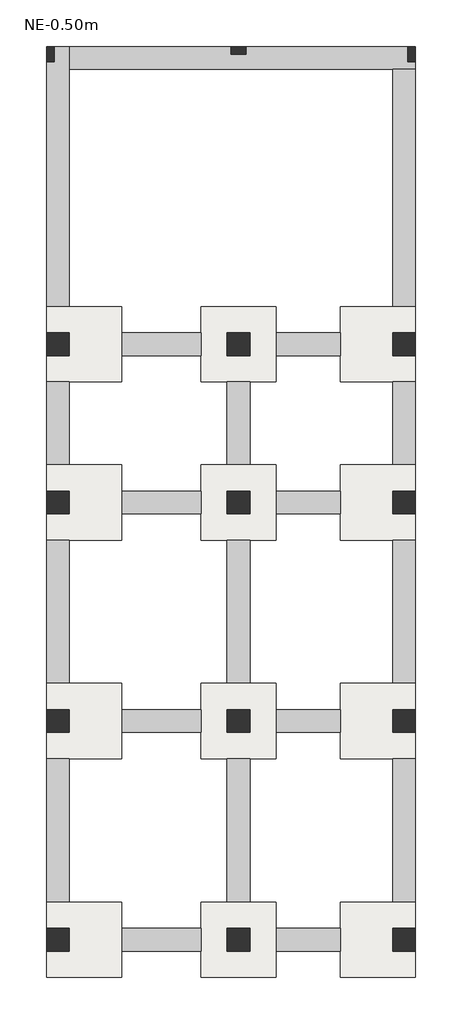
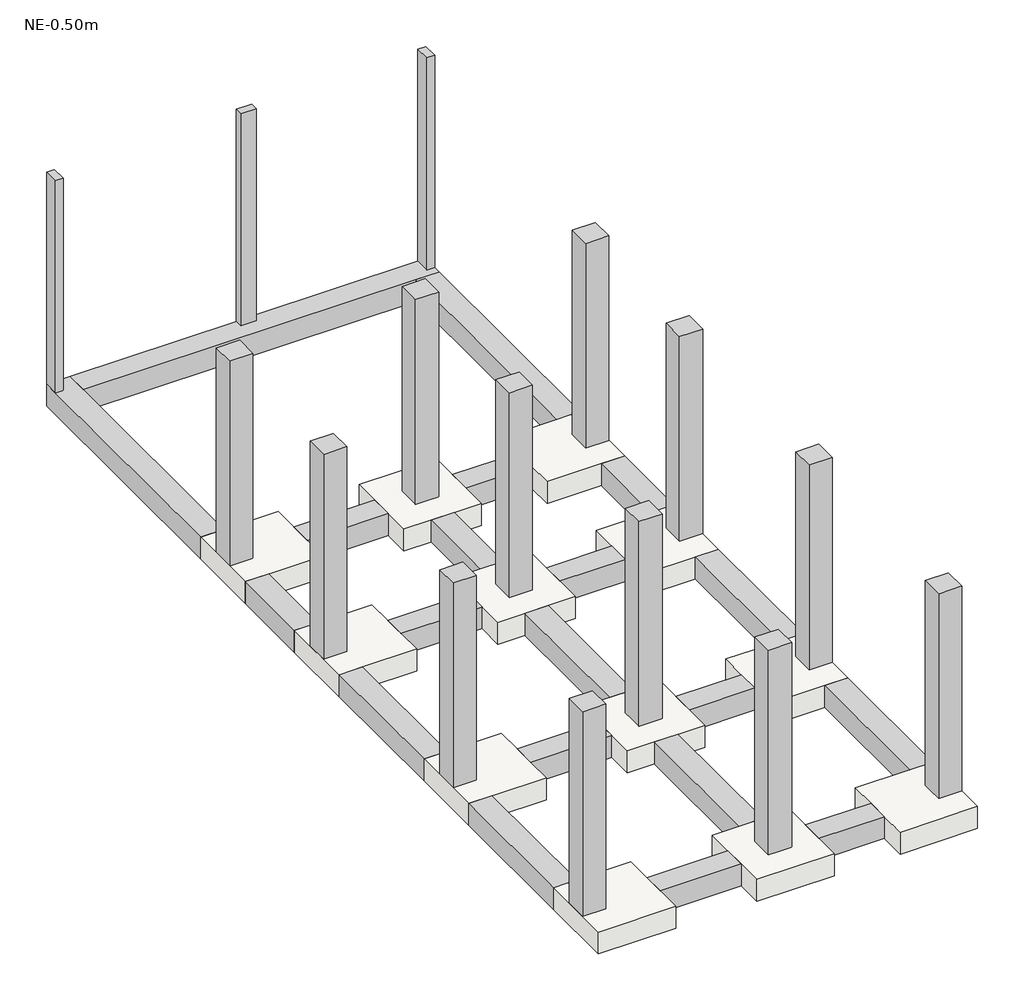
# One storey: 20 beams, 15 columns, 12 slabs.
"""IFC4 building model written with IfcOpenShell, lengths in millimetres."""

from ifc_helpers import new_model, si_unit, frame, origin, place, context, project, spatial, polyline, outline, extrude, faceted_brep, element, save

model = new_model("IFC4")

# Units and contexts
model_context = context("Model", 3, world=origin())
ifc_project = project(units=[si_unit("LENGTHUNIT", "METRE", prefix="MILLI")], contexts=[model_context])

# Site, building, storey
site = spatial("IfcSite", under=ifc_project)
building = spatial("IfcBuilding", under=site)
storey = spatial("IfcBuildingStorey", under=building, Name="NE-0.50m", Elevation=-500.0)

# Beams
placement = place(None, origin())
element("IfcBeam", 1, ObjectType="Hormigón-Viga rectangular : VC (0.30x0.30m)", at=placement, inside=storey, context=model_context, shape_type="SweptSolid", body=[
    extrude(outline(polyline([(1352.3188918, 412.8132138), (1652.3188918, 412.8132138), (1652.3188918, -687.1867862), (1352.3188918, -687.1867862), (1352.3188918, 412.8132138)])), frame((0.0, 0.0, -800.0), z_axis=(0.0, 0.0, 1.0), x_axis=(1.0, 0.0, 0.0)), (0.0, 0.0, 1.0), 300.0),
])
element("IfcBeam", 2, ObjectType="Hormigón-Viga rectangular : VC (0.30x0.30m)", at=placement, inside=storey, context=model_context, shape_type="SweptSolid", body=[
    extrude(outline(polyline([(1652.3188918, -3587.1867862), (1352.3188918, -3587.1867862), (1352.3188918, -1687.1867862), (1652.3188918, -1687.1867862), (1652.3188918, -3587.1867862)])), frame((0.0, 0.0, -800.0), z_axis=(0.0, 0.0, 1.0), x_axis=(1.0, 0.0, 0.0)), (0.0, 0.0, 1.0), 300.0),
])
element("IfcBeam", 3, ObjectType="Hormigón-Viga rectangular : VC (0.30x0.30m)", at=placement, inside=storey, context=model_context, shape_type="SweptSolid", body=[
    extrude(outline(polyline([(1652.3188918, -6487.1867862), (1352.3188918, -6487.1867862), (1352.3188918, -4587.1867862), (1652.3188918, -4587.1867862), (1652.3188918, -6487.1867862)])), frame((0.0, 0.0, -800.0), z_axis=(0.0, 0.0, 1.0), x_axis=(1.0, 0.0, 0.0)), (0.0, 0.0, 1.0), 300.0),
])
element("IfcBeam", 4, ObjectType="Hormigón-Viga rectangular : VC (0.30x0.30m)", at=placement, inside=storey, context=model_context, shape_type="SweptSolid", body=[
    extrude(outline(polyline([(-1047.6811082, 412.8132138), (-747.6811082, 412.8132138), (-747.6811082, -687.1867862), (-1047.6811082, -687.1867862), (-1047.6811082, 412.8132138)])), frame((0.0, 0.0, -800.0), z_axis=(0.0, 0.0, 1.0), x_axis=(1.0, 0.0, 0.0)), (0.0, 0.0, 1.0), 300.0),
])
element("IfcBeam", 5, ObjectType="Hormigón-Viga rectangular : VC (0.30x0.30m)", at=placement, inside=storey, context=model_context, shape_type="SweptSolid", body=[
    extrude(outline(polyline([(-747.6811082, -3587.1867862), (-1047.6811082, -3587.1867862), (-1047.6811082, -1687.1867862), (-747.6811082, -1687.1867862), (-747.6811082, -3587.1867862)])), frame((0.0, 0.0, -800.0), z_axis=(0.0, 0.0, 1.0), x_axis=(1.0, 0.0, 0.0)), (0.0, 0.0, 1.0), 300.0),
])
element("IfcBeam", 6, ObjectType="Hormigón-Viga rectangular : VC (0.30x0.30m)", at=placement, inside=storey, context=model_context, shape_type="SweptSolid", body=[
    extrude(outline(polyline([(-747.6811082, -6487.1867862), (-1047.6811082, -6487.1867862), (-1047.6811082, -4587.1867862), (-747.6811082, -4587.1867862), (-747.6811082, -6487.1867862)])), frame((0.0, 0.0, -800.0), z_axis=(0.0, 0.0, 1.0), x_axis=(1.0, 0.0, 0.0)), (0.0, 0.0, 1.0), 300.0),
])
element("IfcBeam", 7, ObjectType="Hormigón-Viga rectangular : VC (0.30x0.30m)", at=placement, inside=storey, context=model_context, shape_type="SweptSolid", body=[
    extrude(outline(polyline([(3852.3188918, -687.1867862), (3552.3188918, -687.1867862), (3552.3188918, 412.8132138), (3852.3188918, 412.8132138), (3852.3188918, -687.1867862)])), frame((0.0, 0.0, -800.0), z_axis=(0.0, 0.0, 1.0), x_axis=(1.0, 0.0, 0.0)), (0.0, 0.0, 1.0), 300.0),
])
element("IfcBeam", 8, ObjectType="Hormigón-Viga rectangular : VC (0.30x0.30m)", at=placement, inside=storey, context=model_context, shape_type="SweptSolid", body=[
    extrude(outline(polyline([(3852.3188918, -3587.1867862), (3552.3188918, -3587.1867862), (3552.3188918, -1687.1867862), (3852.3188918, -1687.1867862), (3852.3188918, -3587.1867862)])), frame((0.0, 0.0, -800.0), z_axis=(0.0, 0.0, 1.0), x_axis=(1.0, 0.0, 0.0)), (0.0, 0.0, 1.0), 300.0),
])
element("IfcBeam", 9, ObjectType="Hormigón-Viga rectangular : VC (0.30x0.30m)", at=placement, inside=storey, context=model_context, shape_type="SweptSolid", body=[
    extrude(outline(polyline([(3852.3188918, -6487.1867862), (3552.3188918, -6487.1867862), (3552.3188918, -4587.1867862), (3852.3188918, -4587.1867862), (3852.3188918, -6487.1867862)])), frame((0.0, 0.0, -800.0), z_axis=(0.0, 0.0, 1.0), x_axis=(1.0, 0.0, 0.0)), (0.0, 0.0, 1.0), 300.0),
])
element("IfcBeam", 10, ObjectType="Hormigón-Viga rectangular : VC (0.30x0.30m)", at=placement, inside=storey, context=model_context, shape_type="SweptSolid", body=[
    extrude(outline(polyline([(-47.6811082, -7137.1867862), (-47.6811082, -6837.1867862), (1002.3188918, -6837.1867862), (1002.3188918, -7137.1867862), (-47.6811082, -7137.1867862)])), frame((0.0, 0.0, -800.0), z_axis=(0.0, 0.0, 1.0), x_axis=(1.0, 0.0, 0.0)), (0.0, 0.0, 1.0), 300.0),
])
element("IfcBeam", 11, ObjectType="Hormigón-Viga rectangular : VC (0.30x0.30m)", at=placement, inside=storey, context=model_context, shape_type="SweptSolid", body=[
    extrude(outline(polyline([(2002.3188918, -7137.1867862), (2002.3188918, -6837.1867862), (2852.3188918, -6837.1867862), (2852.3188918, -7137.1867862), (2002.3188918, -7137.1867862)])), frame((0.0, 0.0, -800.0), z_axis=(0.0, 0.0, 1.0), x_axis=(1.0, 0.0, 0.0)), (0.0, 0.0, 1.0), 300.0),
])
element("IfcBeam", 12, ObjectType="Hormigón-Viga rectangular : VC (0.30x0.30m)", at=placement, inside=storey, context=model_context, shape_type="SweptSolid", body=[
    extrude(outline(polyline([(-47.6811082, -4237.1867862), (-47.6811082, -3937.1867862), (1002.3188918, -3937.1867862), (1002.3188918, -4237.1867862), (-47.6811082, -4237.1867862)])), frame((0.0, 0.0, -800.0), z_axis=(0.0, 0.0, 1.0), x_axis=(1.0, 0.0, 0.0)), (0.0, 0.0, 1.0), 300.0),
])
element("IfcBeam", 13, ObjectType="Hormigón-Viga rectangular : VC (0.30x0.30m)", at=placement, inside=storey, context=model_context, shape_type="SweptSolid", body=[
    extrude(outline(polyline([(2002.3188918, -4237.1867862), (2002.3188918, -3937.1867862), (2852.3188918, -3937.1867862), (2852.3188918, -4237.1867862), (2002.3188918, -4237.1867862)])), frame((0.0, 0.0, -800.0), z_axis=(0.0, 0.0, 1.0), x_axis=(1.0, 0.0, 0.0)), (0.0, 0.0, 1.0), 300.0),
])
element("IfcBeam", 14, ObjectType="Hormigón-Viga rectangular : VC (0.30x0.30m)", at=placement, inside=storey, context=model_context, shape_type="SweptSolid", body=[
    extrude(outline(polyline([(-47.6811082, -1337.1867862), (-47.6811082, -1037.1867862), (1002.3188918, -1037.1867862), (1002.3188918, -1337.1867862), (-47.6811082, -1337.1867862)])), frame((0.0, 0.0, -800.0), z_axis=(0.0, 0.0, 1.0), x_axis=(1.0, 0.0, 0.0)), (0.0, 0.0, 1.0), 300.0),
])
element("IfcBeam", 15, ObjectType="Hormigón-Viga rectangular : VC (0.30x0.30m)", at=placement, inside=storey, context=model_context, shape_type="SweptSolid", body=[
    extrude(outline(polyline([(2852.3188918, -1037.1867862), (2852.3188918, -1337.1867862), (2002.3188918, -1337.1867862), (2002.3188918, -1037.1867862), (2852.3188918, -1037.1867862)])), frame((0.0, 0.0, -800.0), z_axis=(0.0, 0.0, 1.0), x_axis=(1.0, 0.0, 0.0)), (0.0, 0.0, 1.0), 300.0),
])
element("IfcBeam", 16, ObjectType="Hormigón-Viga rectangular : VC (0.30x0.30m)", at=placement, inside=storey, context=model_context, shape_type="SweptSolid", body=[
    extrude(outline(polyline([(1002.3188918, 1062.8132138), (1002.3188918, 762.8132138), (-47.6811082, 762.8132138), (-47.6811082, 1062.8132138), (1002.3188918, 1062.8132138)])), frame((0.0, 0.0, -800.0), z_axis=(0.0, 0.0, 1.0), x_axis=(1.0, 0.0, 0.0)), (0.0, 0.0, 1.0), 300.0),
])
element("IfcBeam", 17, ObjectType="Hormigón-Viga rectangular : VC (0.30x0.30m)", at=placement, inside=storey, context=model_context, shape_type="SweptSolid", body=[
    extrude(outline(polyline([(2852.3188918, 1062.8132138), (2852.3188918, 762.8132138), (2002.3188918, 762.8132138), (2002.3188918, 1062.8132138), (2852.3188918, 1062.8132138)])), frame((0.0, 0.0, -800.0), z_axis=(0.0, 0.0, 1.0), x_axis=(1.0, 0.0, 0.0)), (0.0, 0.0, 1.0), 300.0),
])
element("IfcBeam", 18, ObjectType="Hormigón-Viga rectangular : VC (0.30x0.30m)", at=placement, inside=storey, context=model_context, shape_type="Brep", body=[
    faceted_brep([(-747.6811082, 4862.8132138, -500.0), (-947.6811082, 4862.8132138, -500.0), (-1047.6811082, 4862.8132138, -500.0), (-1047.6811082, 4662.8132138, -500.0), (-1047.6811082, 1412.8132138, -500.0), (-747.6811082, 1412.8132138, -500.0), (-747.6811082, 4562.8132138, -500.0), (-747.6811082, 4862.8132138, -800.0), (-747.6811082, 1412.8132138, -800.0), (-747.6811082, 4562.8132138, -800.0), (-1047.6811082, 4862.8132138, -800.0), (-1047.6811082, 1412.8132138, -800.0)], [[[0, 1, 2, 3, 4, 5, 6]], [[7, 0, 6, 5, 8, 9]], [[10, 7, 9, 8, 11]], [[2, 10, 11, 4, 3]], [[5, 4, 11, 8]], [[2, 1, 0, 7, 10]]]),
])
element("IfcBeam", 19, ObjectType="Hormigón-Viga rectangular : VC (0.30x0.30m)", at=placement, inside=storey, context=model_context, shape_type="Brep", body=[
    faceted_brep([(3852.3188918, 4562.8132138, -500.0), (3852.3188918, 4662.8132138, -500.0), (3852.3188918, 4862.8132138, -500.0), (3752.3188918, 4862.8132138, -500.0), (1602.3188918, 4862.8132138, -500.0), (1402.3188918, 4862.8132138, -500.0), (-747.6811082, 4862.8132138, -500.0), (-747.6811082, 4562.8132138, -500.0), (3552.3188918, 4562.8132138, -500.0), (3852.3188918, 4562.8132138, -800.0), (-747.6811082, 4562.8132138, -800.0), (3552.3188918, 4562.8132138, -800.0), (3852.3188918, 4862.8132138, -800.0), (-747.6811082, 4862.8132138, -800.0)], [[[0, 1, 2, 3, 4, 5, 6, 7, 8]], [[9, 0, 8, 7, 10, 11]], [[12, 9, 11, 10, 13]], [[2, 12, 13, 6, 5, 4, 3]], [[7, 6, 13, 10]], [[2, 1, 0, 9, 12]]]),
])
element("IfcBeam", 20, ObjectType="Hormigón-Viga rectangular : VC (0.30x0.30m)", at=placement, inside=storey, context=model_context, shape_type="SweptSolid", body=[
    extrude(outline(polyline([(3552.3188918, 4562.8132138), (3852.3188918, 4562.8132138), (3852.3188918, 1412.8132138), (3552.3188918, 1412.8132138), (3552.3188918, 4562.8132138)])), frame((0.0, 0.0, -800.0), z_axis=(0.0, 0.0, 1.0), x_axis=(1.0, 0.0, 0.0)), (0.0, 0.0, 1.0), 300.0),
])

# Columns
element("IfcColumn", 21, ObjectType="Hormigón-Rectangular-Pilar : C1 (0.30x0.30m)", at=placement, inside=storey, context=model_context, shape_type="Brep", body=[
    faceted_brep([(1652.3188918, 1062.8132138, -500.0), (1652.3188918, 762.8132138, -500.0), (1352.3188918, 762.8132138, -500.0), (1352.3188918, 1062.8132138, -500.0), (1652.3188918, 1062.8132138, -100.0), (1652.3188918, 1062.8132138, 0.0), (1652.3188918, 1062.8132138, 2300.0), (1652.3188918, 762.8132138, 2300.0), (1652.3188918, 762.8132138, 0.0), (1652.3188918, 762.8132138, -100.0), (1352.3188918, 762.8132138, 2300.0), (1352.3188918, 762.8132138, 0.0), (1352.3188918, 762.8132138, -100.0), (1352.3188918, 1062.8132138, 2300.0), (1352.3188918, 1062.8132138, 0.0), (1352.3188918, 1062.8132138, -100.0)], [[[0, 1, 2, 3]], [[1, 0, 4, 5, 6, 7, 8, 9]], [[2, 1, 9, 8, 7, 10, 11, 12]], [[3, 2, 12, 11, 10, 13, 14, 15]], [[0, 3, 15, 14, 13, 6, 5, 4]], [[7, 6, 13, 10]]]),
])
element("IfcColumn", 22, ObjectType="Hormigón-Rectangular-Pilar : C1 (0.30x0.30m)", at=placement, inside=storey, context=model_context, shape_type="Brep", body=[
    faceted_brep([(3852.3188918, 1062.8132138, -500.0), (3852.3188918, 762.8132138, -500.0), (3552.3188918, 762.8132138, -500.0), (3552.3188918, 1062.8132138, -500.0), (3852.3188918, 1062.8132138, -100.0), (3852.3188918, 1062.8132138, 0.0), (3852.3188918, 1062.8132138, 2300.0), (3852.3188918, 762.8132138, 2300.0), (3852.3188918, 762.8132138, 0.0), (3852.3188918, 762.8132138, -100.0), (3552.3188918, 762.8132138, 2300.0), (3552.3188918, 762.8132138, 0.0), (3552.3188918, 762.8132138, -100.0), (3552.3188918, 1062.8132138, 2300.0), (3552.3188918, 1062.8132138, 0.0), (3552.3188918, 1062.8132138, -100.0)], [[[0, 1, 2, 3]], [[1, 0, 4, 5, 6, 7, 8, 9]], [[2, 1, 9, 8, 7, 10, 11, 12]], [[3, 2, 12, 11, 10, 13, 14, 15]], [[0, 3, 15, 14, 13, 6, 5, 4]], [[7, 6, 13, 10]]]),
])
element("IfcColumn", 23, ObjectType="Hormigón-Rectangular-Pilar : C1 (0.30x0.30m)", at=placement, inside=storey, context=model_context, shape_type="Brep", body=[
    faceted_brep([(-747.6811082, 1062.8132138, -500.0), (-747.6811082, 762.8132138, -500.0), (-1047.6811082, 762.8132138, -500.0), (-1047.6811082, 1062.8132138, -500.0), (-747.6811082, 1062.8132138, -100.0), (-747.6811082, 1062.8132138, 0.0), (-747.6811082, 1062.8132138, 2300.0), (-747.6811082, 762.8132138, 2300.0), (-747.6811082, 762.8132138, 0.0), (-747.6811082, 762.8132138, -100.0), (-1047.6811082, 762.8132138, 2300.0), (-1047.6811082, 762.8132138, 0.0), (-1047.6811082, 762.8132138, -100.0), (-1047.6811082, 1062.8132138, 2300.0), (-1047.6811082, 1062.8132138, 0.0), (-1047.6811082, 1062.8132138, -100.0)], [[[0, 1, 2, 3]], [[1, 0, 4, 5, 6, 7, 8, 9]], [[2, 1, 9, 8, 7, 10, 11, 12]], [[3, 2, 12, 11, 10, 13, 14, 15]], [[0, 3, 15, 14, 13, 6, 5, 4]], [[7, 6, 13, 10]]]),
])
element("IfcColumn", 24, ObjectType="Hormigón-Rectangular-Pilar : C1 (0.30x0.30m)", at=placement, inside=storey, context=model_context, shape_type="Brep", body=[
    faceted_brep([(1652.3188918, -1037.1867862, -500.0), (1652.3188918, -1337.1867862, -500.0), (1352.3188918, -1337.1867862, -500.0), (1352.3188918, -1037.1867862, -500.0), (1652.3188918, -1037.1867862, -100.0), (1652.3188918, -1037.1867862, 0.0), (1652.3188918, -1037.1867862, 2300.0), (1652.3188918, -1337.1867862, 2300.0), (1652.3188918, -1337.1867862, 0.0), (1652.3188918, -1337.1867862, -100.0), (1352.3188918, -1337.1867862, 2300.0), (1352.3188918, -1337.1867862, 0.0), (1352.3188918, -1337.1867862, -100.0), (1352.3188918, -1037.1867862, 2300.0), (1352.3188918, -1037.1867862, 0.0), (1352.3188918, -1037.1867862, -100.0)], [[[0, 1, 2, 3]], [[1, 0, 4, 5, 6, 7, 8, 9]], [[2, 1, 9, 8, 7, 10, 11, 12]], [[3, 2, 12, 11, 10, 13, 14, 15]], [[0, 3, 15, 14, 13, 6, 5, 4]], [[7, 6, 13, 10]]]),
])
element("IfcColumn", 25, ObjectType="Hormigón-Rectangular-Pilar : C1 (0.30x0.30m)", at=placement, inside=storey, context=model_context, shape_type="Brep", body=[
    faceted_brep([(3852.3188918, -1037.1867862, -500.0), (3852.3188918, -1337.1867862, -500.0), (3552.3188918, -1337.1867862, -500.0), (3552.3188918, -1037.1867862, -500.0), (3852.3188918, -1037.1867862, -100.0), (3852.3188918, -1037.1867862, 0.0), (3852.3188918, -1037.1867862, 2300.0), (3852.3188918, -1337.1867862, 2300.0), (3852.3188918, -1337.1867862, 0.0), (3852.3188918, -1337.1867862, -100.0), (3552.3188918, -1337.1867862, 2300.0), (3552.3188918, -1337.1867862, 0.0), (3552.3188918, -1337.1867862, -100.0), (3552.3188918, -1037.1867862, 2300.0), (3552.3188918, -1037.1867862, 0.0), (3552.3188918, -1037.1867862, -100.0)], [[[0, 1, 2, 3]], [[1, 0, 4, 5, 6, 7, 8, 9]], [[2, 1, 9, 8, 7, 10, 11, 12]], [[3, 2, 12, 11, 10, 13, 14, 15]], [[0, 3, 15, 14, 13, 6, 5, 4]], [[7, 6, 13, 10]]]),
])
element("IfcColumn", 26, ObjectType="Hormigón-Rectangular-Pilar : C1 (0.30x0.30m)", at=placement, inside=storey, context=model_context, shape_type="Brep", body=[
    faceted_brep([(-747.6811082, -1037.1867862, -500.0), (-747.6811082, -1337.1867862, -500.0), (-1047.6811082, -1337.1867862, -500.0), (-1047.6811082, -1037.1867862, -500.0), (-747.6811082, -1037.1867862, -100.0), (-747.6811082, -1037.1867862, 0.0), (-747.6811082, -1037.1867862, 2300.0), (-747.6811082, -1337.1867862, 2300.0), (-747.6811082, -1337.1867862, 0.0), (-747.6811082, -1337.1867862, -100.0), (-1047.6811082, -1337.1867862, 2300.0), (-1047.6811082, -1337.1867862, 0.0), (-1047.6811082, -1337.1867862, -100.0), (-1047.6811082, -1037.1867862, 2300.0), (-1047.6811082, -1037.1867862, 0.0), (-1047.6811082, -1037.1867862, -100.0)], [[[0, 1, 2, 3]], [[1, 0, 4, 5, 6, 7, 8, 9]], [[2, 1, 9, 8, 7, 10, 11, 12]], [[3, 2, 12, 11, 10, 13, 14, 15]], [[0, 3, 15, 14, 13, 6, 5, 4]], [[7, 6, 13, 10]]]),
])
element("IfcColumn", 27, ObjectType="Hormigón-Rectangular-Pilar : C1 (0.30x0.30m)", at=placement, inside=storey, context=model_context, shape_type="Brep", body=[
    faceted_brep([(1652.3188918, -3937.1867862, -500.0), (1652.3188918, -4237.1867862, -500.0), (1352.3188918, -4237.1867862, -500.0), (1352.3188918, -3937.1867862, -500.0), (1652.3188918, -3937.1867862, -100.0), (1652.3188918, -3937.1867862, 0.0), (1652.3188918, -3937.1867862, 2300.0), (1652.3188918, -4237.1867862, 2300.0), (1652.3188918, -4237.1867862, 0.0), (1652.3188918, -4237.1867862, -100.0), (1352.3188918, -4237.1867862, 2300.0), (1352.3188918, -4237.1867862, 0.0), (1352.3188918, -4237.1867862, -100.0), (1352.3188918, -3937.1867862, 2300.0), (1352.3188918, -3937.1867862, 0.0), (1352.3188918, -3937.1867862, -100.0)], [[[0, 1, 2, 3]], [[1, 0, 4, 5, 6, 7, 8, 9]], [[2, 1, 9, 8, 7, 10, 11, 12]], [[3, 2, 12, 11, 10, 13, 14, 15]], [[0, 3, 15, 14, 13, 6, 5, 4]], [[7, 6, 13, 10]]]),
])
element("IfcColumn", 28, ObjectType="Hormigón-Rectangular-Pilar : C1 (0.30x0.30m)", at=placement, inside=storey, context=model_context, shape_type="Brep", body=[
    faceted_brep([(3852.3188918, -3937.1867862, -500.0), (3852.3188918, -4237.1867862, -500.0), (3552.3188918, -4237.1867862, -500.0), (3552.3188918, -3937.1867862, -500.0), (3852.3188918, -3937.1867862, -100.0), (3852.3188918, -3937.1867862, 0.0), (3852.3188918, -3937.1867862, 2300.0), (3852.3188918, -4237.1867862, 2300.0), (3852.3188918, -4237.1867862, 0.0), (3852.3188918, -4237.1867862, -100.0), (3552.3188918, -4237.1867862, 2300.0), (3552.3188918, -4237.1867862, 0.0), (3552.3188918, -4237.1867862, -100.0), (3552.3188918, -3937.1867862, 2300.0), (3552.3188918, -3937.1867862, 0.0), (3552.3188918, -3937.1867862, -100.0)], [[[0, 1, 2, 3]], [[1, 0, 4, 5, 6, 7, 8, 9]], [[2, 1, 9, 8, 7, 10, 11, 12]], [[3, 2, 12, 11, 10, 13, 14, 15]], [[0, 3, 15, 14, 13, 6, 5, 4]], [[7, 6, 13, 10]]]),
])
element("IfcColumn", 29, ObjectType="Hormigón-Rectangular-Pilar : C1 (0.30x0.30m)", at=placement, inside=storey, context=model_context, shape_type="Brep", body=[
    faceted_brep([(-747.6811082, -3937.1867862, -500.0), (-747.6811082, -4237.1867862, -500.0), (-1047.6811082, -4237.1867862, -500.0), (-1047.6811082, -3937.1867862, -500.0), (-747.6811082, -3937.1867862, -100.0), (-747.6811082, -3937.1867862, 0.0), (-747.6811082, -3937.1867862, 2300.0), (-747.6811082, -4237.1867862, 2300.0), (-747.6811082, -4237.1867862, 0.0), (-747.6811082, -4237.1867862, -100.0), (-1047.6811082, -4237.1867862, 2300.0), (-1047.6811082, -4237.1867862, 0.0), (-1047.6811082, -4237.1867862, -100.0), (-1047.6811082, -3937.1867862, 2300.0), (-1047.6811082, -3937.1867862, 0.0), (-1047.6811082, -3937.1867862, -100.0)], [[[0, 1, 2, 3]], [[1, 0, 4, 5, 6, 7, 8, 9]], [[2, 1, 9, 8, 7, 10, 11, 12]], [[3, 2, 12, 11, 10, 13, 14, 15]], [[0, 3, 15, 14, 13, 6, 5, 4]], [[7, 6, 13, 10]]]),
])
element("IfcColumn", 30, ObjectType="Hormigón-Rectangular-Pilar : C1 (0.30x0.30m)", at=placement, inside=storey, context=model_context, shape_type="Brep", body=[
    faceted_brep([(1652.3188918, -6837.1867862, -500.0), (1652.3188918, -7137.1867862, -500.0), (1352.3188918, -7137.1867862, -500.0), (1352.3188918, -6837.1867862, -500.0), (1652.3188918, -6837.1867862, -100.0), (1652.3188918, -6837.1867862, 0.0), (1652.3188918, -6837.1867862, 2300.0), (1652.3188918, -7137.1867862, 2300.0), (1652.3188918, -7137.1867862, 0.0), (1652.3188918, -7137.1867862, -100.0), (1352.3188918, -7137.1867862, 2300.0), (1352.3188918, -7137.1867862, 0.0), (1352.3188918, -7137.1867862, -100.0), (1352.3188918, -6837.1867862, 2300.0), (1352.3188918, -6837.1867862, 0.0), (1352.3188918, -6837.1867862, -100.0)], [[[0, 1, 2, 3]], [[1, 0, 4, 5, 6, 7, 8, 9]], [[2, 1, 9, 8, 7, 10, 11, 12]], [[3, 2, 12, 11, 10, 13, 14, 15]], [[0, 3, 15, 14, 13, 6, 5, 4]], [[7, 6, 13, 10]]]),
])
element("IfcColumn", 31, ObjectType="Hormigón-Rectangular-Pilar : C1 (0.30x0.30m)", at=placement, inside=storey, context=model_context, shape_type="Brep", body=[
    faceted_brep([(3852.3188918, -6837.1867862, -500.0), (3852.3188918, -7137.1867862, -500.0), (3552.3188918, -7137.1867862, -500.0), (3552.3188918, -6837.1867862, -500.0), (3852.3188918, -6837.1867862, -100.0), (3852.3188918, -6837.1867862, 0.0), (3852.3188918, -6837.1867862, 2300.0), (3852.3188918, -7137.1867862, 2300.0), (3552.3188918, -7137.1867862, 2300.0), (3552.3188918, -7137.1867862, 0.0), (3552.3188918, -7137.1867862, -100.0), (3552.3188918, -6837.1867862, 2300.0), (3552.3188918, -6837.1867862, 0.0), (3552.3188918, -6837.1867862, -100.0)], [[[0, 1, 2, 3]], [[1, 0, 4, 5, 6, 7]], [[2, 1, 7, 8, 9, 10]], [[3, 2, 10, 9, 8, 11, 12, 13]], [[0, 3, 13, 12, 11, 6, 5, 4]], [[7, 6, 11, 8]]]),
])
element("IfcColumn", 32, ObjectType="Hormigón-Rectangular-Pilar : C1 (0.30x0.30m)", at=placement, inside=storey, context=model_context, shape_type="Brep", body=[
    faceted_brep([(-747.6811082, -6837.1867862, -500.0), (-747.6811082, -7137.1867862, -500.0), (-1047.6811082, -7137.1867862, -500.0), (-1047.6811082, -6837.1867862, -500.0), (-747.6811082, -6837.1867862, -100.0), (-747.6811082, -6837.1867862, 0.0), (-747.6811082, -6837.1867862, 2300.0), (-747.6811082, -7137.1867862, 2300.0), (-747.6811082, -7137.1867862, 0.0), (-747.6811082, -7137.1867862, -100.0), (-1047.6811082, -7137.1867862, 2300.0), (-1047.6811082, -6837.1867862, 2300.0), (-1047.6811082, -6837.1867862, 0.0), (-1047.6811082, -6837.1867862, -100.0)], [[[0, 1, 2, 3]], [[1, 0, 4, 5, 6, 7, 8, 9]], [[2, 1, 9, 8, 7, 10]], [[3, 2, 10, 11, 12, 13]], [[0, 3, 13, 12, 11, 6, 5, 4]], [[7, 6, 11, 10]]]),
])
element("IfcColumn", 33, ObjectType="Hormigón-Rectangular-Pilar : C2 (0.10x0.20m)", at=placement, inside=storey, context=model_context, shape_type="Brep", body=[
    faceted_brep([(-947.6811082, 4862.8132138, -500.0), (-947.6811082, 4662.8132138, -500.0), (-1047.6811082, 4662.8132138, -500.0), (-1047.6811082, 4862.8132138, -500.0), (-947.6811082, 4862.8132138, -100.0), (-947.6811082, 4862.8132138, 0.0), (-947.6811082, 4862.8132138, 2400.0), (-947.6811082, 4662.8132138, 2400.0), (-947.6811082, 4662.8132138, 0.0), (-947.6811082, 4662.8132138, -100.0), (-1047.6811082, 4662.8132138, 2400.0), (-1047.6811082, 4662.8132138, 0.0), (-1047.6811082, 4662.8132138, -100.0), (-1047.6811082, 4862.8132138, 2400.0)], [[[0, 1, 2, 3]], [[1, 0, 4, 5, 6, 7, 8, 9]], [[2, 1, 9, 8, 7, 10, 11, 12]], [[3, 2, 12, 11, 10, 13]], [[0, 3, 13, 6, 5, 4]], [[7, 6, 13, 10]]]),
])
element("IfcColumn", 34, ObjectType="Hormigón-Rectangular-Pilar : C2 (0.10x0.20m)", at=placement, inside=storey, context=model_context, shape_type="Brep", body=[
    faceted_brep([(3852.3188918, 4862.8132138, -500.0), (3852.3188918, 4662.8132138, -500.0), (3752.3188918, 4662.8132138, -500.0), (3752.3188918, 4862.8132138, -500.0), (3852.3188918, 4862.8132138, 2400.0), (3852.3188918, 4662.8132138, 2400.0), (3852.3188918, 4662.8132138, 0.0), (3852.3188918, 4662.8132138, -100.0), (3752.3188918, 4662.8132138, 2400.0), (3752.3188918, 4662.8132138, 0.0), (3752.3188918, 4662.8132138, -100.0), (3752.3188918, 4862.8132138, 2400.0), (3752.3188918, 4862.8132138, 0.0), (3752.3188918, 4862.8132138, -100.0)], [[[0, 1, 2, 3]], [[1, 0, 4, 5, 6, 7]], [[2, 1, 7, 6, 5, 8, 9, 10]], [[3, 2, 10, 9, 8, 11, 12, 13]], [[0, 3, 13, 12, 11, 4]], [[5, 4, 11, 8]]]),
])
element("IfcColumn", 35, ObjectType="Hormigón-Rectangular-Pilar : C2 (0.10x0.20m)", at=placement, inside=storey, context=model_context, shape_type="Brep", body=[
    faceted_brep([(1402.3188918, 4862.8132138, -500.0), (1602.3188918, 4862.8132138, -500.0), (1602.3188918, 4762.8132138, -500.0), (1402.3188918, 4762.8132138, -500.0), (1402.3188918, 4862.8132138, -100.0), (1402.3188918, 4862.8132138, 0.0), (1402.3188918, 4862.8132138, 2400.0), (1602.3188918, 4862.8132138, 2400.0), (1602.3188918, 4862.8132138, 0.0), (1602.3188918, 4862.8132138, -100.0), (1602.3188918, 4762.8132138, 2400.0), (1602.3188918, 4762.8132138, 0.0), (1602.3188918, 4762.8132138, -100.0), (1402.3188918, 4762.8132138, 2400.0), (1402.3188918, 4762.8132138, 0.0), (1402.3188918, 4762.8132138, -100.0)], [[[0, 1, 2, 3]], [[1, 0, 4, 5, 6, 7, 8, 9]], [[2, 1, 9, 8, 7, 10, 11, 12]], [[3, 2, 12, 11, 10, 13, 14, 15]], [[0, 3, 15, 14, 13, 6, 5, 4]], [[7, 6, 13, 10]]]),
])

# Slabs
element("IfcSlab", 36, ObjectType="M_Zapata-Rectangular : Z1 (1.00x1.00x0.3m)", at=placement, inside=storey, context=model_context, shape_type="Brep", body=[
    faceted_brep([(-47.6811082, -6487.1867862, -500.0), (-747.6811082, -6487.1867862, -500.0), (-1047.6811082, -6487.1867862, -500.0), (-1047.6811082, -7487.1867862, -500.0), (-47.6811082, -7487.1867862, -500.0), (-47.6811082, -7137.1867862, -500.0), (-47.6811082, -6837.1867862, -500.0), (-47.6811082, -6487.1867862, -800.0), (-47.6811082, -6837.1867862, -800.0), (-47.6811082, -7137.1867862, -800.0), (-47.6811082, -7487.1867862, -800.0), (-1047.6811082, -7487.1867862, -800.0), (-1047.6811082, -6487.1867862, -800.0), (-747.6811082, -6487.1867862, -800.0)], [[[0, 1, 2, 3, 4, 5, 6]], [[7, 8, 9, 10, 11, 12, 13]], [[2, 1, 0, 7, 13, 12]], [[3, 2, 12, 11]], [[4, 3, 11, 10]], [[0, 6, 5, 4, 10, 9, 8, 7]]]),
])
element("IfcSlab", 37, ObjectType="M_Zapata-Rectangular : Z1 (1.00x1.00x0.3m)", at=placement, inside=storey, context=model_context, shape_type="Brep", body=[
    faceted_brep([(-47.6811082, -3587.1867862, -500.0), (-747.6811082, -3587.1867862, -500.0), (-1047.6811082, -3587.1867862, -500.0), (-1047.6811082, -4587.1867862, -500.0), (-747.6811082, -4587.1867862, -500.0), (-47.6811082, -4587.1867862, -500.0), (-47.6811082, -4237.1867862, -500.0), (-47.6811082, -3937.1867862, -500.0), (-47.6811082, -3587.1867862, -800.0), (-47.6811082, -3937.1867862, -800.0), (-47.6811082, -4237.1867862, -800.0), (-47.6811082, -4587.1867862, -800.0), (-747.6811082, -4587.1867862, -800.0), (-1047.6811082, -4587.1867862, -800.0), (-1047.6811082, -3587.1867862, -800.0), (-747.6811082, -3587.1867862, -800.0)], [[[0, 1, 2, 3, 4, 5, 6, 7]], [[8, 9, 10, 11, 12, 13, 14, 15]], [[2, 1, 0, 8, 15, 14]], [[3, 2, 14, 13]], [[5, 4, 3, 13, 12, 11]], [[0, 7, 6, 5, 11, 10, 9, 8]]]),
])
element("IfcSlab", 38, ObjectType="M_Zapata-Rectangular : Z1 (1.00x1.00x0.3m)", at=placement, inside=storey, context=model_context, shape_type="Brep", body=[
    faceted_brep([(2002.3188918, -3587.1867862, -500.0), (1652.3188918, -3587.1867862, -500.0), (1352.3188918, -3587.1867862, -500.0), (1002.3188918, -3587.1867862, -500.0), (1002.3188918, -3937.1867862, -500.0), (1002.3188918, -4237.1867862, -500.0), (1002.3188918, -4587.1867862, -500.0), (1352.3188918, -4587.1867862, -500.0), (1652.3188918, -4587.1867862, -500.0), (2002.3188918, -4587.1867862, -500.0), (2002.3188918, -4237.1867862, -500.0), (2002.3188918, -3937.1867862, -500.0), (2002.3188918, -3587.1867862, -800.0), (2002.3188918, -3937.1867862, -800.0), (2002.3188918, -4237.1867862, -800.0), (2002.3188918, -4587.1867862, -800.0), (1652.3188918, -4587.1867862, -800.0), (1352.3188918, -4587.1867862, -800.0), (1002.3188918, -4587.1867862, -800.0), (1002.3188918, -4237.1867862, -800.0), (1002.3188918, -3937.1867862, -800.0), (1002.3188918, -3587.1867862, -800.0), (1352.3188918, -3587.1867862, -800.0), (1652.3188918, -3587.1867862, -800.0)], [[[0, 1, 2, 3, 4, 5, 6, 7, 8, 9, 10, 11]], [[12, 13, 14, 15, 16, 17, 18, 19, 20, 21, 22, 23]], [[3, 2, 1, 0, 12, 23, 22, 21]], [[6, 5, 4, 3, 21, 20, 19, 18]], [[9, 8, 7, 6, 18, 17, 16, 15]], [[0, 11, 10, 9, 15, 14, 13, 12]]]),
])
element("IfcSlab", 39, ObjectType="M_Zapata-Rectangular : Z1 (1.00x1.00x0.3m)", at=placement, inside=storey, context=model_context, shape_type="Brep", body=[
    faceted_brep([(2002.3188918, -6487.1867862, -500.0), (1652.3188918, -6487.1867862, -500.0), (1352.3188918, -6487.1867862, -500.0), (1002.3188918, -6487.1867862, -500.0), (1002.3188918, -6837.1867862, -500.0), (1002.3188918, -7137.1867862, -500.0), (1002.3188918, -7487.1867862, -500.0), (2002.3188918, -7487.1867862, -500.0), (2002.3188918, -7137.1867862, -500.0), (2002.3188918, -6837.1867862, -500.0), (2002.3188918, -6487.1867862, -800.0), (2002.3188918, -6837.1867862, -800.0), (2002.3188918, -7137.1867862, -800.0), (2002.3188918, -7487.1867862, -800.0), (1002.3188918, -7487.1867862, -800.0), (1002.3188918, -7137.1867862, -800.0), (1002.3188918, -6837.1867862, -800.0), (1002.3188918, -6487.1867862, -800.0), (1352.3188918, -6487.1867862, -800.0), (1652.3188918, -6487.1867862, -800.0)], [[[0, 1, 2, 3, 4, 5, 6, 7, 8, 9]], [[10, 11, 12, 13, 14, 15, 16, 17, 18, 19]], [[3, 2, 1, 0, 10, 19, 18, 17]], [[6, 5, 4, 3, 17, 16, 15, 14]], [[7, 6, 14, 13]], [[0, 9, 8, 7, 13, 12, 11, 10]]]),
])
element("IfcSlab", 40, ObjectType="M_Zapata-Rectangular : Z1 (1.00x1.00x0.3m)", at=placement, inside=storey, context=model_context, shape_type="Brep", body=[
    faceted_brep([(3852.3188918, -6487.1867862, -500.0), (3552.3188918, -6487.1867862, -500.0), (2852.3188918, -6487.1867862, -500.0), (2852.3188918, -6837.1867862, -500.0), (2852.3188918, -7137.1867862, -500.0), (2852.3188918, -7487.1867862, -500.0), (3852.3188918, -7487.1867862, -500.0), (3852.3188918, -6487.1867862, -800.0), (3852.3188918, -7487.1867862, -800.0), (2852.3188918, -7487.1867862, -800.0), (2852.3188918, -7137.1867862, -800.0), (2852.3188918, -6837.1867862, -800.0), (2852.3188918, -6487.1867862, -800.0), (3552.3188918, -6487.1867862, -800.0)], [[[0, 1, 2, 3, 4, 5, 6]], [[7, 8, 9, 10, 11, 12, 13]], [[2, 1, 0, 7, 13, 12]], [[5, 4, 3, 2, 12, 11, 10, 9]], [[6, 5, 9, 8]], [[0, 6, 8, 7]]]),
])
element("IfcSlab", 41, ObjectType="M_Zapata-Rectangular : Z1 (1.00x1.00x0.3m)", at=placement, inside=storey, context=model_context, shape_type="Brep", body=[
    faceted_brep([(3852.3188918, -3587.1867862, -500.0), (3552.3188918, -3587.1867862, -500.0), (2852.3188918, -3587.1867862, -500.0), (2852.3188918, -3937.1867862, -500.0), (2852.3188918, -4237.1867862, -500.0), (2852.3188918, -4587.1867862, -500.0), (3552.3188918, -4587.1867862, -500.0), (3852.3188918, -4587.1867862, -500.0), (3852.3188918, -3587.1867862, -800.0), (3852.3188918, -4587.1867862, -800.0), (3552.3188918, -4587.1867862, -800.0), (2852.3188918, -4587.1867862, -800.0), (2852.3188918, -4237.1867862, -800.0), (2852.3188918, -3937.1867862, -800.0), (2852.3188918, -3587.1867862, -800.0), (3552.3188918, -3587.1867862, -800.0)], [[[0, 1, 2, 3, 4, 5, 6, 7]], [[8, 9, 10, 11, 12, 13, 14, 15]], [[2, 1, 0, 8, 15, 14]], [[5, 4, 3, 2, 14, 13, 12, 11]], [[7, 6, 5, 11, 10, 9]], [[0, 7, 9, 8]]]),
])
element("IfcSlab", 42, ObjectType="M_Zapata-Rectangular : Z1 (1.00x1.00x0.3m)", at=placement, inside=storey, context=model_context, shape_type="Brep", body=[
    faceted_brep([(3852.3188918, -687.1867862, -500.0), (3552.3188918, -687.1867862, -500.0), (2852.3188918, -687.1867862, -500.0), (2852.3188918, -1037.1867862, -500.0), (2852.3188918, -1337.1867862, -500.0), (2852.3188918, -1687.1867862, -500.0), (3552.3188918, -1687.1867862, -500.0), (3852.3188918, -1687.1867862, -500.0), (3852.3188918, -687.1867862, -800.0), (3852.3188918, -1687.1867862, -800.0), (3552.3188918, -1687.1867862, -800.0), (2852.3188918, -1687.1867862, -800.0), (2852.3188918, -1337.1867862, -800.0), (2852.3188918, -1037.1867862, -800.0), (2852.3188918, -687.1867862, -800.0), (3552.3188918, -687.1867862, -800.0)], [[[0, 1, 2, 3, 4, 5, 6, 7]], [[8, 9, 10, 11, 12, 13, 14, 15]], [[2, 1, 0, 8, 15, 14]], [[5, 4, 3, 2, 14, 13, 12, 11]], [[7, 6, 5, 11, 10, 9]], [[0, 7, 9, 8]]]),
])
element("IfcSlab", 43, ObjectType="M_Zapata-Rectangular : Z1 (1.00x1.00x0.3m)", at=placement, inside=storey, context=model_context, shape_type="Brep", body=[
    faceted_brep([(3852.3188918, 1412.8132138, -500.0), (3552.3188918, 1412.8132138, -500.0), (2852.3188918, 1412.8132138, -500.0), (2852.3188918, 1062.8132138, -500.0), (2852.3188918, 762.8132138, -500.0), (2852.3188918, 412.8132138, -500.0), (3552.3188918, 412.8132138, -500.0), (3852.3188918, 412.8132138, -500.0), (3852.3188918, 1412.8132138, -800.0), (3852.3188918, 412.8132138, -800.0), (3552.3188918, 412.8132138, -800.0), (2852.3188918, 412.8132138, -800.0), (2852.3188918, 762.8132138, -800.0), (2852.3188918, 1062.8132138, -800.0), (2852.3188918, 1412.8132138, -800.0), (3552.3188918, 1412.8132138, -800.0)], [[[0, 1, 2, 3, 4, 5, 6, 7]], [[8, 9, 10, 11, 12, 13, 14, 15]], [[2, 1, 0, 8, 15, 14]], [[5, 4, 3, 2, 14, 13, 12, 11]], [[7, 6, 5, 11, 10, 9]], [[0, 7, 9, 8]]]),
])
element("IfcSlab", 44, ObjectType="M_Zapata-Rectangular : Z1 (1.00x1.00x0.3m)", at=placement, inside=storey, context=model_context, shape_type="Brep", body=[
    faceted_brep([(2002.3188918, 1412.8132138, -500.0), (1002.3188918, 1412.8132138, -500.0), (1002.3188918, 1062.8132138, -500.0), (1002.3188918, 762.8132138, -500.0), (1002.3188918, 412.8132138, -500.0), (1352.3188918, 412.8132138, -500.0), (1652.3188918, 412.8132138, -500.0), (2002.3188918, 412.8132138, -500.0), (2002.3188918, 762.8132138, -500.0), (2002.3188918, 1062.8132138, -500.0), (2002.3188918, 1412.8132138, -800.0), (2002.3188918, 1062.8132138, -800.0), (2002.3188918, 762.8132138, -800.0), (2002.3188918, 412.8132138, -800.0), (1652.3188918, 412.8132138, -800.0), (1352.3188918, 412.8132138, -800.0), (1002.3188918, 412.8132138, -800.0), (1002.3188918, 762.8132138, -800.0), (1002.3188918, 1062.8132138, -800.0), (1002.3188918, 1412.8132138, -800.0)], [[[0, 1, 2, 3, 4, 5, 6, 7, 8, 9]], [[10, 11, 12, 13, 14, 15, 16, 17, 18, 19]], [[1, 0, 10, 19]], [[4, 3, 2, 1, 19, 18, 17, 16]], [[7, 6, 5, 4, 16, 15, 14, 13]], [[0, 9, 8, 7, 13, 12, 11, 10]]]),
])
element("IfcSlab", 45, ObjectType="M_Zapata-Rectangular : Z1 (1.00x1.00x0.3m)", at=placement, inside=storey, context=model_context, shape_type="Brep", body=[
    faceted_brep([(-47.6811082, 1412.8132138, -500.0), (-747.6811082, 1412.8132138, -500.0), (-1047.6811082, 1412.8132138, -500.0), (-1047.6811082, 412.8132138, -500.0), (-747.6811082, 412.8132138, -500.0), (-47.6811082, 412.8132138, -500.0), (-47.6811082, 762.8132138, -500.0), (-47.6811082, 1062.8132138, -500.0), (-47.6811082, 1412.8132138, -800.0), (-47.6811082, 1062.8132138, -800.0), (-47.6811082, 762.8132138, -800.0), (-47.6811082, 412.8132138, -800.0), (-747.6811082, 412.8132138, -800.0), (-1047.6811082, 412.8132138, -800.0), (-1047.6811082, 1412.8132138, -800.0), (-747.6811082, 1412.8132138, -800.0)], [[[0, 1, 2, 3, 4, 5, 6, 7]], [[8, 9, 10, 11, 12, 13, 14, 15]], [[2, 1, 0, 8, 15, 14]], [[3, 2, 14, 13]], [[5, 4, 3, 13, 12, 11]], [[0, 7, 6, 5, 11, 10, 9, 8]]]),
])
element("IfcSlab", 46, ObjectType="M_Zapata-Rectangular : Z1 (1.00x1.00x0.3m)", at=placement, inside=storey, context=model_context, shape_type="Brep", body=[
    faceted_brep([(-47.6811082, -687.1867862, -500.0), (-747.6811082, -687.1867862, -500.0), (-1047.6811082, -687.1867862, -500.0), (-1047.6811082, -1687.1867862, -500.0), (-747.6811082, -1687.1867862, -500.0), (-47.6811082, -1687.1867862, -500.0), (-47.6811082, -1337.1867862, -500.0), (-47.6811082, -1037.1867862, -500.0), (-47.6811082, -687.1867862, -800.0), (-47.6811082, -1037.1867862, -800.0), (-47.6811082, -1337.1867862, -800.0), (-47.6811082, -1687.1867862, -800.0), (-747.6811082, -1687.1867862, -800.0), (-1047.6811082, -1687.1867862, -800.0), (-1047.6811082, -687.1867862, -800.0), (-747.6811082, -687.1867862, -800.0)], [[[0, 1, 2, 3, 4, 5, 6, 7]], [[8, 9, 10, 11, 12, 13, 14, 15]], [[2, 1, 0, 8, 15, 14]], [[3, 2, 14, 13]], [[5, 4, 3, 13, 12, 11]], [[0, 7, 6, 5, 11, 10, 9, 8]]]),
])
element("IfcSlab", 47, ObjectType="M_Zapata-Rectangular : Z1 (1.00x1.00x0.3m)", at=placement, inside=storey, context=model_context, shape_type="Brep", body=[
    faceted_brep([(2002.3188918, -687.1867862, -500.0), (1652.3188918, -687.1867862, -500.0), (1352.3188918, -687.1867862, -500.0), (1002.3188918, -687.1867862, -500.0), (1002.3188918, -1037.1867862, -500.0), (1002.3188918, -1337.1867862, -500.0), (1002.3188918, -1687.1867862, -500.0), (1352.3188918, -1687.1867862, -500.0), (1652.3188918, -1687.1867862, -500.0), (2002.3188918, -1687.1867862, -500.0), (2002.3188918, -1337.1867862, -500.0), (2002.3188918, -1037.1867862, -500.0), (2002.3188918, -687.1867862, -800.0), (2002.3188918, -1037.1867862, -800.0), (2002.3188918, -1337.1867862, -800.0), (2002.3188918, -1687.1867862, -800.0), (1652.3188918, -1687.1867862, -800.0), (1352.3188918, -1687.1867862, -800.0), (1002.3188918, -1687.1867862, -800.0), (1002.3188918, -1337.1867862, -800.0), (1002.3188918, -1037.1867862, -800.0), (1002.3188918, -687.1867862, -800.0), (1352.3188918, -687.1867862, -800.0), (1652.3188918, -687.1867862, -800.0)], [[[0, 1, 2, 3, 4, 5, 6, 7, 8, 9, 10, 11]], [[12, 13, 14, 15, 16, 17, 18, 19, 20, 21, 22, 23]], [[3, 2, 1, 0, 12, 23, 22, 21]], [[6, 5, 4, 3, 21, 20, 19, 18]], [[9, 8, 7, 6, 18, 17, 16, 15]], [[0, 11, 10, 9, 15, 14, 13, 12]]]),
])

save(model, "model.ifc")
